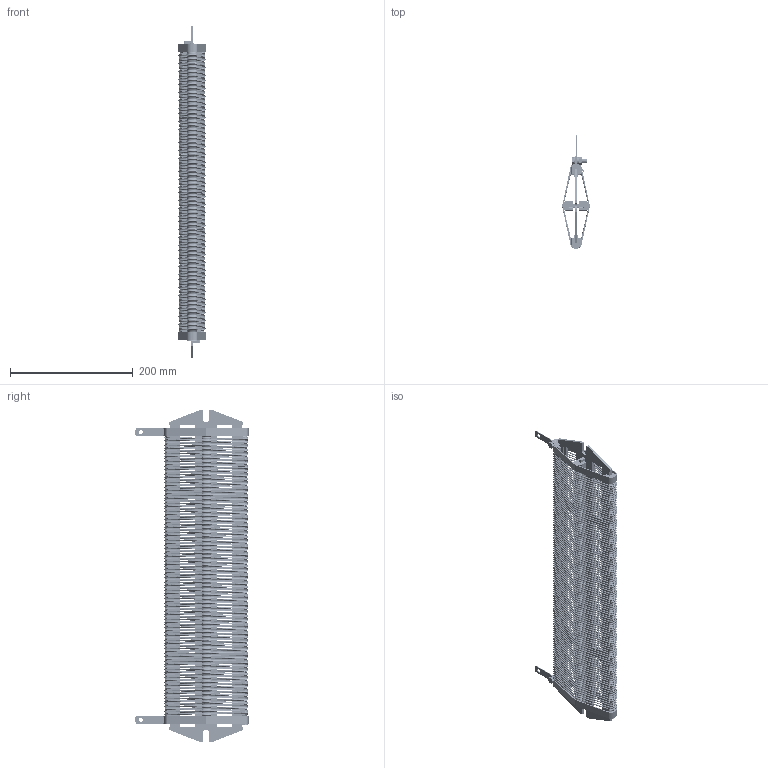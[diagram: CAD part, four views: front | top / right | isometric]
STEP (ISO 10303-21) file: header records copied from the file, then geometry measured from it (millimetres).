
FILE_DESCRIPTION(/* description */ (''),/* implementation_level */ '2;1');
FILE_NAME(/* name */ 'C:\_Vault\Dati\CATALOGO\RDP\RDP Catalogo\RDP 540.stp',/* time_stamp */ '2023-05-16T15:27:37+02:00',/* author */ ('claudio'),/* organization */ ('Fairfild Srl'),/* preprocessor_version */ 'ST-DEVELOPER v18.1',/* originating_system */ 'Autodesk Inventor 2022',/* authorisation */ '');
FILE_SCHEMA (('AUTOMOTIVE_DESIGN { 1 0 10303 214 3 1 1 }'));
Products named in the file (10): RDP 540; 76DP751540AA100000; Mica RDP 540 L.485; 14MS22G01400000001; Collare RDP 420 - 540; Avvolgimento RDP 540; 28M006000A28800000; 600006000A25100032; 600006000A29200030; 97M006020A23900070
Assembly tree (50 placements, depth 2):
  RDP 540
    76DP751540AA100000
    Mica RDP 540 L.485  x4
    14MS22G01400000001  x32
    Collare RDP 420 - 540  x2
    Avvolgimento RDP 540
    28M006000A28800000  x2
    600006000A25100032  x2
    600006000A29200030  x4
    97M006020A23900070  x2
Bounding box: 44.85 x 183.84 x 540 mm (x, y, z)
Volume: 663560.5 mm3; surface area: 582875.6 mm2
Topology: 50 solids, 50 shells, 4841 faces, 14623 edges, 9884 vertices
Faces by surface type: torus 1768, plane 1200, cone 938, cylinder 935
Full cylindrical faces by diameter (mm): 2 x841, 4.917 x2, 6 x2, 6.4 x4, 6.5 x6, 8.88 x2, 12.5 x4
Entity records: 71308 total; most frequent: DIRECTION 14030, CARTESIAN_POINT 12444, ORIENTED_EDGE 11614, AXIS2_PLACEMENT_3D 6391, EDGE_CURVE 5807, CIRCLE 4369, VERTEX_POINT 3869, EDGE_LOOP 1982
